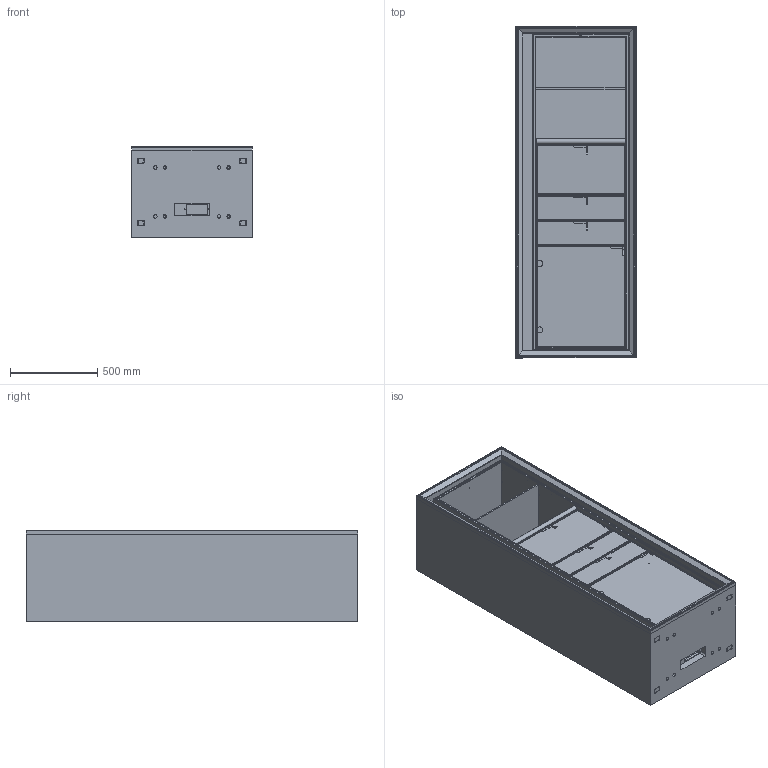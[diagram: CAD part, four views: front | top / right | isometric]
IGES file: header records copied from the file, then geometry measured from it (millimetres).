
Global section: file name: 80086; native system: Autodesk Inventor 2014; preprocessor: unknown; author: Robertom; date: 20140526.112804; units: millimetre
Bounding box: 690 x 1900 x 520 mm (x, y, z)
Volume: 208777298.5 mm3; surface area: 23593837 mm2
Topology: 88 solids, 94 shells, 2307 faces, 6510 edges, 4434 vertices
Faces by surface type: bspline 2307
